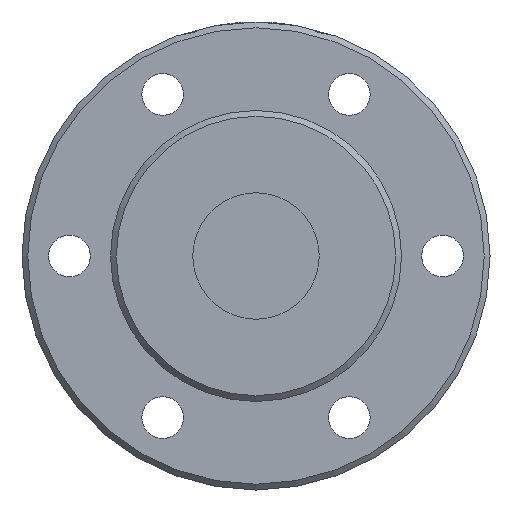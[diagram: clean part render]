
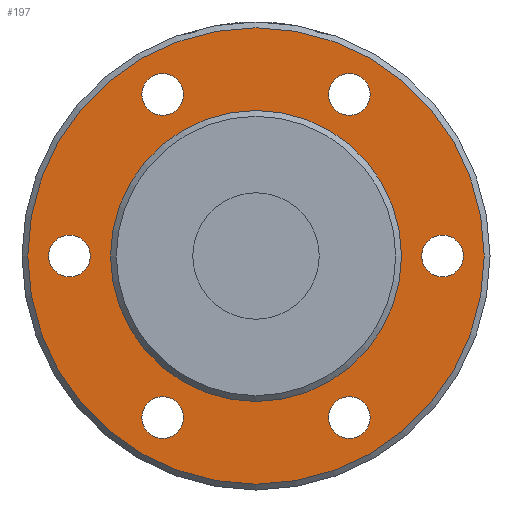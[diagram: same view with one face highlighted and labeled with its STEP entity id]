
A CAD part, front view. The second image highlights one B-rep face of the part: STEP entity #197.
In plain terms, the highlighted planar face has unit normal (0, -1, 0).
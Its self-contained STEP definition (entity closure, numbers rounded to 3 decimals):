
#22 = DIRECTION ( 'NONE',  ( 0., 0., 1. ) ) ;
#33 = AXIS2_PLACEMENT_3D ( 'NONE', #727, #1087, #992 ) ;
#40 = VERTEX_POINT ( 'NONE', #1023 ) ;
#59 = DIRECTION ( 'NONE',  ( 0., 0., 1. ) ) ;
#61 = VERTEX_POINT ( 'NONE', #229 ) ;
#80 = DIRECTION ( 'NONE',  ( 0., 0., 1. ) ) ;
#91 = DIRECTION ( 'NONE',  ( 0., -1., 0. ) ) ;
#105 = CARTESIAN_POINT ( 'NONE',  ( -14.75, 22., 28.848 ) ) ;
#109 = CIRCLE ( 'NONE', #1063, 3.3 ) ;
#128 = CARTESIAN_POINT ( 'NONE',  ( 0., 22., 0. ) ) ;
#137 = CARTESIAN_POINT ( 'NONE',  ( 0., 22., 23. ) ) ;
#140 = CARTESIAN_POINT ( 'NONE',  ( -14.75, 22., -25.548 ) ) ;
#154 = DIRECTION ( 'NONE',  ( 0., 1., 0. ) ) ;
#160 = DIRECTION ( 'NONE',  ( 1., 0., 0. ) ) ;
#182 = CIRCLE ( 'NONE', #758, 3.3 ) ;
#183 = ORIENTED_EDGE ( 'NONE', *, *, #343, .T. ) ;
#184 = CARTESIAN_POINT ( 'NONE',  ( 14.75, 22., -25.548 ) ) ;
#197 = ADVANCED_FACE ( 'NONE', ( #946, #494, #678, #248, #583, #1021, #518, #1121 ), #848, .F. ) ;
#221 = DIRECTION ( 'NONE',  ( 0., 0., 1. ) ) ;
#229 = CARTESIAN_POINT ( 'NONE',  ( -14.75, 22., -22.248 ) ) ;
#235 = CARTESIAN_POINT ( 'NONE',  ( 0., 22., 36.08 ) ) ;
#245 = VERTEX_POINT ( 'NONE', #1092 ) ;
#248 = FACE_BOUND ( 'NONE', #622, .T. ) ;
#255 = DIRECTION ( 'NONE',  ( 0., 1., 0. ) ) ;
#258 = CIRCLE ( 'NONE', #33, 3.3 ) ;
#277 = ORIENTED_EDGE ( 'NONE', *, *, #822, .F. ) ;
#310 = VERTEX_POINT ( 'NONE', #137 ) ;
#314 = DIRECTION ( 'NONE',  ( 0., 1., 0. ) ) ;
#319 = EDGE_LOOP ( 'NONE', ( #183 ) ) ;
#323 = EDGE_CURVE ( 'NONE', #61, #61, #363, .T. ) ;
#343 = EDGE_CURVE ( 'NONE', #766, #766, #182, .T. ) ;
#346 = ORIENTED_EDGE ( 'NONE', *, *, #517, .T. ) ;
#363 = CIRCLE ( 'NONE', #437, 3.3 ) ;
#392 = ORIENTED_EDGE ( 'NONE', *, *, #408, .T. ) ;
#393 = EDGE_CURVE ( 'NONE', #245, #245, #258, .T. ) ;
#408 = EDGE_CURVE ( 'NONE', #761, #761, #1008, .T. ) ;
#437 = AXIS2_PLACEMENT_3D ( 'NONE', #140, #154, #59 ) ;
#445 = VERTEX_POINT ( 'NONE', #105 ) ;
#475 = DIRECTION ( 'NONE',  ( 0., 0., 1. ) ) ;
#484 = DIRECTION ( 'NONE',  ( 0., -1., 0. ) ) ;
#494 = FACE_BOUND ( 'NONE', #674, .T. ) ;
#517 = EDGE_CURVE ( 'NONE', #925, #925, #109, .T. ) ;
#518 = FACE_BOUND ( 'NONE', #760, .T. ) ;
#548 = CARTESIAN_POINT ( 'NONE',  ( 29.5, 22., 0. ) ) ;
#550 = CIRCLE ( 'NONE', #627, 23. ) ;
#569 = CIRCLE ( 'NONE', #978, 3.3 ) ;
#583 = FACE_BOUND ( 'NONE', #1109, .T. ) ;
#587 = AXIS2_PLACEMENT_3D ( 'NONE', #184, #255, #80 ) ;
#607 = CARTESIAN_POINT ( 'NONE',  ( 0., 22., 0. ) ) ;
#622 = EDGE_LOOP ( 'NONE', ( #765 ) ) ;
#627 = AXIS2_PLACEMENT_3D ( 'NONE', #607, #91, #961 ) ;
#673 = DIRECTION ( 'NONE',  ( 0., 1., 0. ) ) ;
#674 = EDGE_LOOP ( 'NONE', ( #1049 ) ) ;
#678 = FACE_BOUND ( 'NONE', #965, .T. ) ;
#687 = EDGE_CURVE ( 'NONE', #40, #40, #865, .T. ) ;
#727 = CARTESIAN_POINT ( 'NONE',  ( 14.75, 22., 25.548 ) ) ;
#758 = AXIS2_PLACEMENT_3D ( 'NONE', #1034, #314, #775 ) ;
#760 = EDGE_LOOP ( 'NONE', ( #346 ) ) ;
#761 = VERTEX_POINT ( 'NONE', #235 ) ;
#765 = ORIENTED_EDGE ( 'NONE', *, *, #393, .T. ) ;
#766 = VERTEX_POINT ( 'NONE', #1017 ) ;
#775 = DIRECTION ( 'NONE',  ( 0., 0., 1. ) ) ;
#822 = EDGE_CURVE ( 'NONE', #310, #310, #550, .T. ) ;
#831 = AXIS2_PLACEMENT_3D ( 'NONE', #128, #484, #221 ) ;
#839 = CARTESIAN_POINT ( 'NONE',  ( 29.5, 22., 3.3 ) ) ;
#848 = PLANE ( 'NONE',  #1079 ) ;
#853 = CARTESIAN_POINT ( 'NONE',  ( 0., 22., 0. ) ) ;
#865 = CIRCLE ( 'NONE', #587, 3.3 ) ;
#925 = VERTEX_POINT ( 'NONE', #839 ) ;
#946 = FACE_BOUND ( 'NONE', #947, .T. ) ;
#947 = EDGE_LOOP ( 'NONE', ( #277 ) ) ;
#958 = EDGE_LOOP ( 'NONE', ( #392 ) ) ;
#961 = DIRECTION ( 'NONE',  ( 0., 0., 1. ) ) ;
#965 = EDGE_LOOP ( 'NONE', ( #1022 ) ) ;
#978 = AXIS2_PLACEMENT_3D ( 'NONE', #1064, #1000, #22 ) ;
#983 = DIRECTION ( 'NONE',  ( 0., 1., 0. ) ) ;
#992 = DIRECTION ( 'NONE',  ( 0., 0., 1. ) ) ;
#1000 = DIRECTION ( 'NONE',  ( 0., 1., 0. ) ) ;
#1008 = CIRCLE ( 'NONE', #831, 36.08 ) ;
#1017 = CARTESIAN_POINT ( 'NONE',  ( -29.5, 22., 3.3 ) ) ;
#1021 = FACE_BOUND ( 'NONE', #319, .T. ) ;
#1022 = ORIENTED_EDGE ( 'NONE', *, *, #687, .T. ) ;
#1023 = CARTESIAN_POINT ( 'NONE',  ( 14.75, 22., -22.248 ) ) ;
#1034 = CARTESIAN_POINT ( 'NONE',  ( -29.5, 22., 0. ) ) ;
#1049 = ORIENTED_EDGE ( 'NONE', *, *, #323, .T. ) ;
#1054 = EDGE_CURVE ( 'NONE', #445, #445, #569, .T. ) ;
#1063 = AXIS2_PLACEMENT_3D ( 'NONE', #548, #983, #475 ) ;
#1064 = CARTESIAN_POINT ( 'NONE',  ( -14.75, 22., 25.548 ) ) ;
#1079 = AXIS2_PLACEMENT_3D ( 'NONE', #853, #673, #160 ) ;
#1087 = DIRECTION ( 'NONE',  ( 0., 1., 0. ) ) ;
#1092 = CARTESIAN_POINT ( 'NONE',  ( 14.75, 22., 28.848 ) ) ;
#1109 = EDGE_LOOP ( 'NONE', ( #1115 ) ) ;
#1115 = ORIENTED_EDGE ( 'NONE', *, *, #1054, .T. ) ;
#1121 = FACE_OUTER_BOUND ( 'NONE', #958, .T. ) ;
